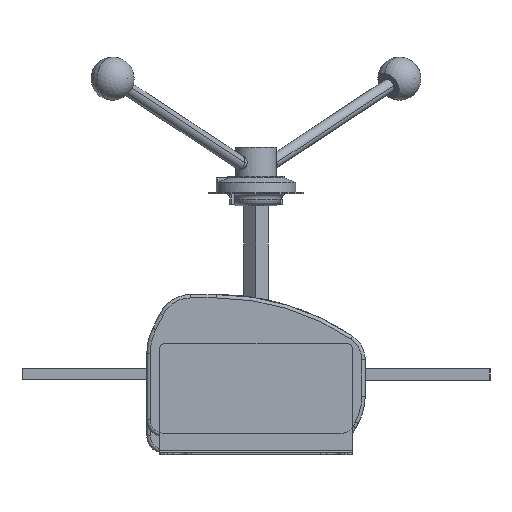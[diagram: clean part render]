
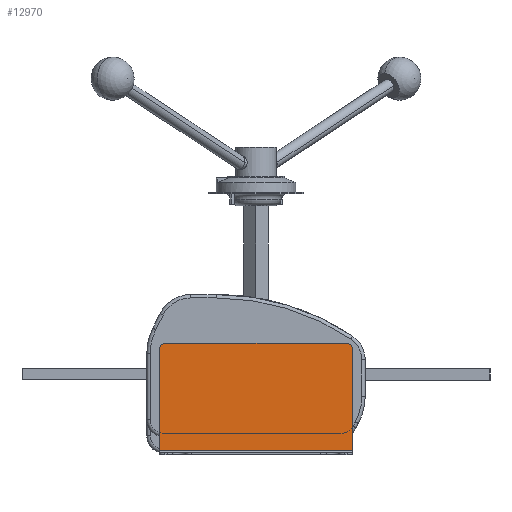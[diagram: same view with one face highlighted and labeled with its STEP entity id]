
A CAD part, left-side view. The second image highlights one B-rep face of the part: STEP entity #12970.
In plain terms, the highlighted planar face has unit normal (-1, 0, 0).
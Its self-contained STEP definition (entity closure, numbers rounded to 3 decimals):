
#969 = DIRECTION ( 'NONE',  ( -1., 0., 0. ) ) ;
#1621 = EDGE_CURVE ( 'NONE', #9441, #7026, #8062, .T. ) ;
#1792 = ORIENTED_EDGE ( 'NONE', *, *, #14387, .T. ) ;
#2002 = CARTESIAN_POINT ( 'NONE',  ( -27., 85., 22. ) ) ;
#2167 = CARTESIAN_POINT ( 'NONE',  ( -27., 80., 22. ) ) ;
#2340 = CARTESIAN_POINT ( 'NONE',  ( -27., 85., -67. ) ) ;
#4635 = EDGE_CURVE ( 'NONE', #12723, #9441, #13881, .T. ) ;
#5325 = CARTESIAN_POINT ( 'NONE',  ( -27., 80., 27. ) ) ;
#5913 = VECTOR ( 'NONE', #14309, 1000. ) ;
#6068 = DIRECTION ( 'NONE',  ( 0., 1., 0. ) ) ;
#6754 = CARTESIAN_POINT ( 'NONE',  ( -27., 85., -67. ) ) ;
#6904 = CIRCLE ( 'NONE', #15740, 5. ) ;
#6990 = DIRECTION ( 'NONE',  ( 0., 0., 1. ) ) ;
#7004 = DIRECTION ( 'NONE',  ( -1., 0., 0. ) ) ;
#7026 = VERTEX_POINT ( 'NONE', #9795 ) ;
#7288 = DIRECTION ( 'NONE',  ( 0., 0., 1. ) ) ;
#7466 = CARTESIAN_POINT ( 'NONE',  ( -27., -85., 27. ) ) ;
#7569 = AXIS2_PLACEMENT_3D ( 'NONE', #10794, #13292, #13236 ) ;
#7809 = AXIS2_PLACEMENT_3D ( 'NONE', #12106, #7004, #15721 ) ;
#7851 = VECTOR ( 'NONE', #7288, 1000. ) ;
#7957 = CARTESIAN_POINT ( 'NONE',  ( -27., -85., -67. ) ) ;
#8062 = CIRCLE ( 'NONE', #7569, 5. ) ;
#9178 = VERTEX_POINT ( 'NONE', #2340 ) ;
#9441 = VERTEX_POINT ( 'NONE', #10431 ) ;
#9551 = EDGE_CURVE ( 'NONE', #9178, #13446, #14854, .T. ) ;
#9669 = FACE_OUTER_BOUND ( 'NONE', #13017, .T. ) ;
#9795 = CARTESIAN_POINT ( 'NONE',  ( -27., -80., 27. ) ) ;
#10431 = CARTESIAN_POINT ( 'NONE',  ( -27., -85., 22. ) ) ;
#10545 = DIRECTION ( 'NONE',  ( 0., 0., 1. ) ) ;
#10776 = VERTEX_POINT ( 'NONE', #5325 ) ;
#10794 = CARTESIAN_POINT ( 'NONE',  ( -27., -80., 22. ) ) ;
#10999 = CARTESIAN_POINT ( 'NONE',  ( -27., -85., -67. ) ) ;
#11734 = ORIENTED_EDGE ( 'NONE', *, *, #4635, .T. ) ;
#12072 = ORIENTED_EDGE ( 'NONE', *, *, #12870, .F. ) ;
#12106 = CARTESIAN_POINT ( 'NONE',  ( -27., -85., -67. ) ) ;
#12273 = LINE ( 'NONE', #7466, #12671 ) ;
#12671 = VECTOR ( 'NONE', #6068, 1000. ) ;
#12696 = VECTOR ( 'NONE', #10545, 1000. ) ;
#12723 = VERTEX_POINT ( 'NONE', #15399 ) ;
#12870 = EDGE_CURVE ( 'NONE', #12723, #9178, #15508, .T. ) ;
#12970 = ADVANCED_FACE ( 'NONE', ( #9669 ), #14528, .T. ) ;
#13017 = EDGE_LOOP ( 'NONE', ( #1792, #15026, #14931, #12072, #11734, #13422 ) ) ;
#13236 = DIRECTION ( 'NONE',  ( 0., 0., 1. ) ) ;
#13292 = DIRECTION ( 'NONE',  ( -1., 0., 0. ) ) ;
#13422 = ORIENTED_EDGE ( 'NONE', *, *, #1621, .T. ) ;
#13445 = EDGE_CURVE ( 'NONE', #10776, #13446, #6904, .T. ) ;
#13446 = VERTEX_POINT ( 'NONE', #2002 ) ;
#13881 = LINE ( 'NONE', #10999, #7851 ) ;
#14309 = DIRECTION ( 'NONE',  ( 0., 1., 0. ) ) ;
#14387 = EDGE_CURVE ( 'NONE', #7026, #10776, #12273, .T. ) ;
#14528 = PLANE ( 'NONE',  #7809 ) ;
#14854 = LINE ( 'NONE', #6754, #12696 ) ;
#14931 = ORIENTED_EDGE ( 'NONE', *, *, #9551, .F. ) ;
#15026 = ORIENTED_EDGE ( 'NONE', *, *, #13445, .T. ) ;
#15399 = CARTESIAN_POINT ( 'NONE',  ( -27., -85., -67. ) ) ;
#15508 = LINE ( 'NONE', #7957, #5913 ) ;
#15721 = DIRECTION ( 'NONE',  ( 0., 0., 1. ) ) ;
#15740 = AXIS2_PLACEMENT_3D ( 'NONE', #2167, #969, #6990 ) ;
